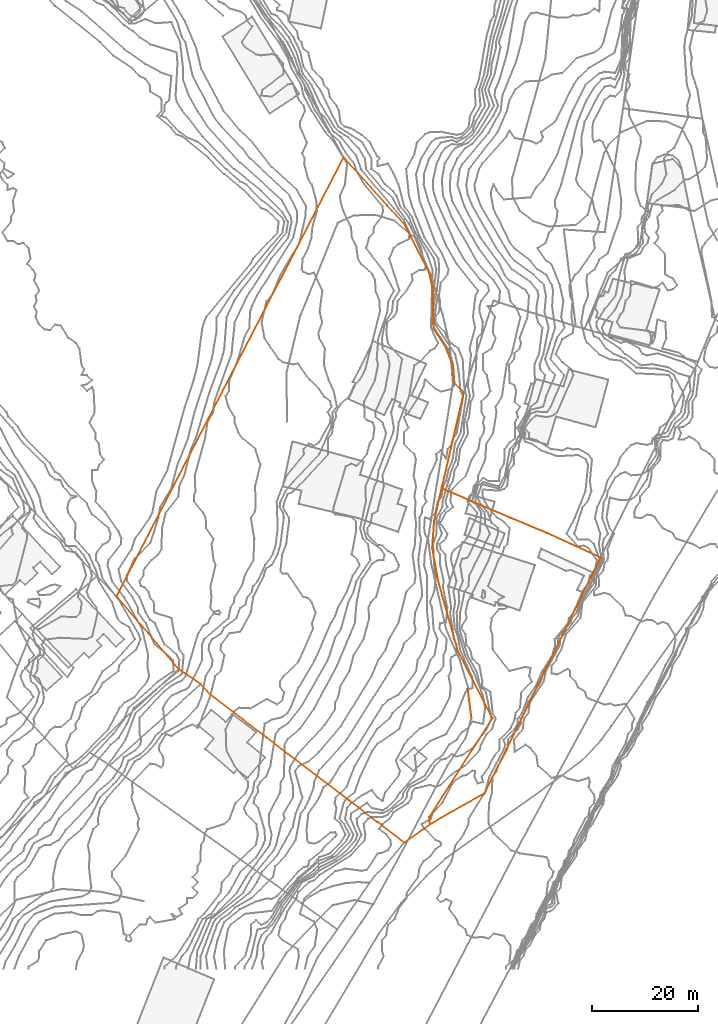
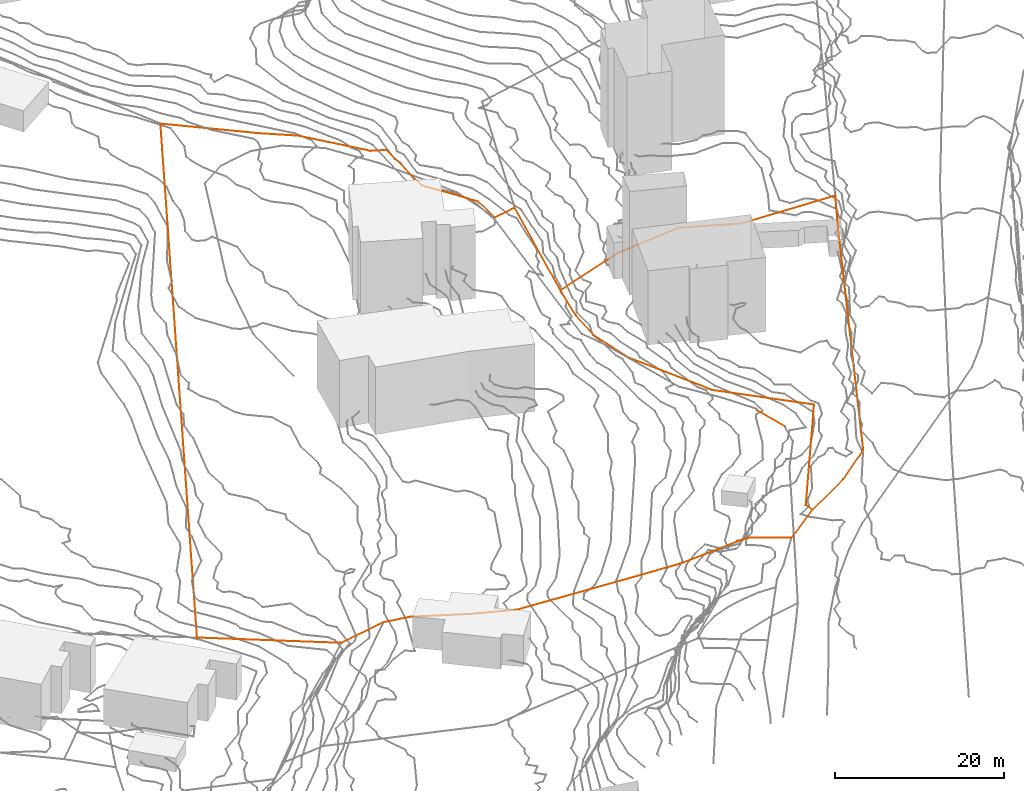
# Not in any storey, part 176 of 419: 3 proxies.
"""IFC2X3 model written with IfcOpenShell, lengths in metres."""

from ifc_helpers import new_model, entity, si_unit, frame, origin_with_axes, place, context, subcontext, project, element, save


model = new_model("IFC2X3")

# Units and contexts
model_context = context("Model", 3, precision=1e-05, world=origin_with_axes())
body_context = subcontext(model_context, "Body", "Model", "MODEL_VIEW")
ifc_project = project(units=[si_unit("AREAUNIT", "SQUARE_METRE"), si_unit("LENGTHUNIT", "METRE")], contexts=[model_context])

# Proxies
proxy_1_placement = place(None, frame((614.1920204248, 51.3976909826, 60.5), z_axis=(0.0, 0.0, 1.0), x_axis=(1.0, 0.0, 0.0)))
element("IfcBuildingElementProxy", 1, at=proxy_1_placement, Name="Route 12", ObjectType="NOTDEFINED", context=body_context, shape_type="GeometricCurveSet", body=[
    entity("IfcGeometricCurveSet", [entity("IfcPolyline", [entity("IfcCartesianPoint", [0.7000000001, -5.4000000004, 0.7]), entity("IfcCartesianPoint", [0.0, 0.0, 0.0])])]),
])
proxy_2_placement = place(None, frame((547.7220204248, 69.0676909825, 40.1744088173), z_axis=(0.0, 0.0, 1.0), x_axis=(1.0, 0.0, 0.0)))
element("IfcBuildingElementProxy", 2, at=proxy_2_placement, Name="Cadastre 318", ObjectType="NOTDEFINED", context=body_context, shape_type="GeometricCurveSet", body=[
    entity("IfcGeometricCurveSet", [entity("IfcPolyline", [entity("IfcCartesianPoint", [42.97, 83.1000000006, 8.9521016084]), entity("IfcCartesianPoint", [51.17, 74.0200000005, 10.2038914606]), entity("IfcCartesianPoint", [54.47, 70.3900000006, 10.8941121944]), entity("IfcCartesianPoint", [59.15, 61.3300000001, 12.5511911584]), entity("IfcCartesianPoint", [59.78, 58.5200000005, 14.1743850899]), entity("IfcCartesianPoint", [60.02, 50.6299999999, 13.7147416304]), entity("IfcCartesianPoint", [62.23, 47.21, 13.797398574]), entity("IfcCartesianPoint", [63.6900000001, 43.6699999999, 14.3366543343]), entity("IfcCartesianPoint", [63.97, 40.1900000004, 14.0504911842]), entity("IfcCartesianPoint", [65.72, 38.4800000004, 15.8895165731]), entity("IfcCartesianPoint", [61.52, 20.3799999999, 16.3781653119]), entity("IfcCartesianPoint", [60.1, 14.1900000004, 16.9360445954]), entity("IfcCartesianPoint", [59.74, 9.1400000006, 17.2013428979]), entity("IfcCartesianPoint", [60.84, 3.04, 17.3699049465]), entity("IfcCartesianPoint", [64.5700000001, -10.3700000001, 19.517789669]), entity("IfcCartesianPoint", [71.15, -23.0899999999, 22.8199192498]), entity("IfcCartesianPoint", [59.1900000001, -41.8499999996, 23.8649131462]), entity("IfcCartesianPoint", [59.3100000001, -43.2199999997, 23.9462525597]), entity("IfcCartesianPoint", [54.4400000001, -46.7000000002, 23.7084402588]), entity("IfcCartesianPoint", [50.37, -43.5899999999, 23.2479913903]), entity("IfcCartesianPoint", [49.41, -42.79, 22.660398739]), entity("IfcCartesianPoint", [49.29, -42.6899999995, 22.5664549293]), entity("IfcCartesianPoint", [49.25, -42.7400000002, 22.5628269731]), entity("IfcCartesianPoint", [43.87, -38.6299999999, 18.7595903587]), entity("IfcCartesianPoint", [28.35, -26.7999999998, 10.3700153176]), entity("IfcCartesianPoint", [23.9, -23.4100000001, 9.2411475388]), entity("IfcCartesianPoint", [18.24, -19.0800000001, 8.1998081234]), entity("IfcCartesianPoint", [15.92, -16.6799999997, 6.778184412]), entity("IfcCartesianPoint", [11.76, -13.8399999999, 3.5130809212]), entity("IfcCartesianPoint", [0.0, 0.0, 0.0]), entity("IfcCartesianPoint", [42.97, 83.1000000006, 8.9521016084])])]),
])
proxy_3_placement = place(None, frame((606.9120204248, 27.2176909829, 64.0393219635), z_axis=(0.0, 0.0, 1.0), x_axis=(1.0, 0.0, 0.0)))
element("IfcBuildingElementProxy", 3, at=proxy_3_placement, Name="Cadastre 321", ObjectType="NOTDEFINED", context=body_context, shape_type="GeometricCurveSet", body=[
    entity("IfcGeometricCurveSet", [entity("IfcPolyline", [entity("IfcCartesianPoint", [2.33, 62.2299999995, -7.4867478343]), entity("IfcCartesianPoint", [8.59, 59.5300000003, -2.6669617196]), entity("IfcCartesianPoint", [15.2899999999, 56.6699999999, 0.3934512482]), entity("IfcCartesianPoint", [22.2, 53.7999999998, 0.3225808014]), entity("IfcCartesianPoint", [32.4099999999, 49.1200000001, 3.6572578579]), entity("IfcCartesianPoint", [30.5, 45.2400000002, 2.3086260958]), entity("IfcCartesianPoint", [10.47, 4.5, 1.5584600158]), entity("IfcCartesianPoint", [6.47, 2.2999999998, 0.0749922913]), entity("IfcCartesianPoint", [0.12, -1.3700000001, 0.0813394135]), entity("IfcCartesianPoint", [0.0, 0.0, 0.0]), entity("IfcCartesianPoint", [11.96, 18.7599999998, -1.0449938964]), entity("IfcCartesianPoint", [5.38, 31.4799999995, -4.3471234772]), entity("IfcCartesianPoint", [1.6499999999, 44.8899999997, -6.4950081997]), entity("IfcCartesianPoint", [0.5499999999, 50.9900000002, -6.6635702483]), entity("IfcCartesianPoint", [0.9099999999, 56.04, -6.9288685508]), entity("IfcCartesianPoint", [2.33, 62.2299999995, -7.4867478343])])]),
])

save(model, "model.ifc")
